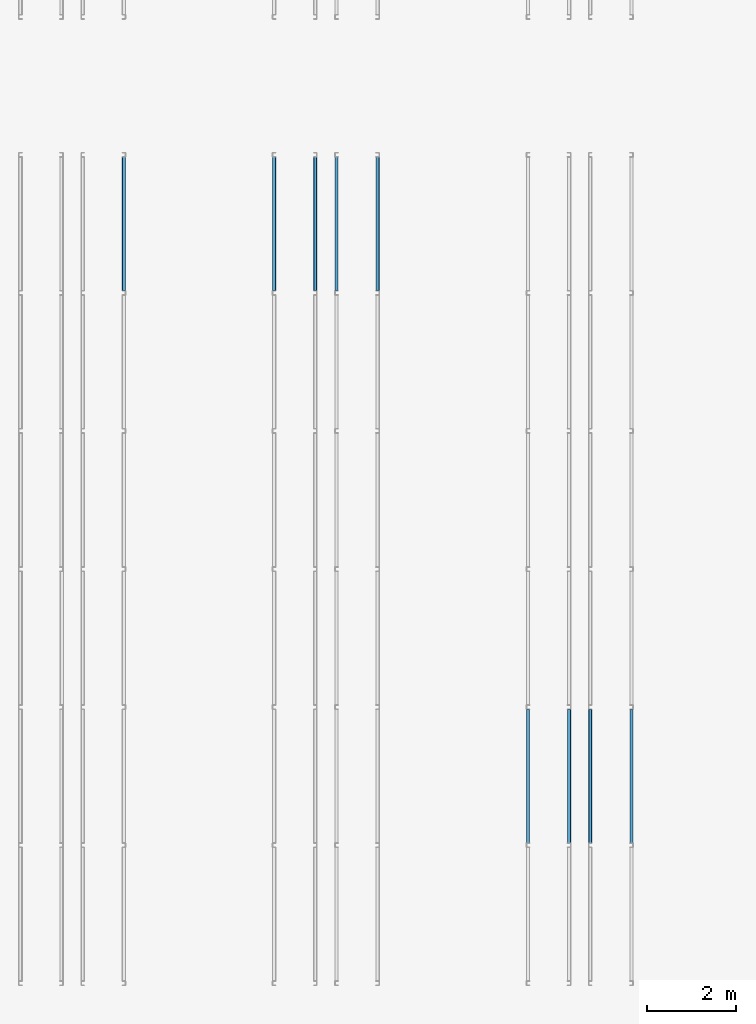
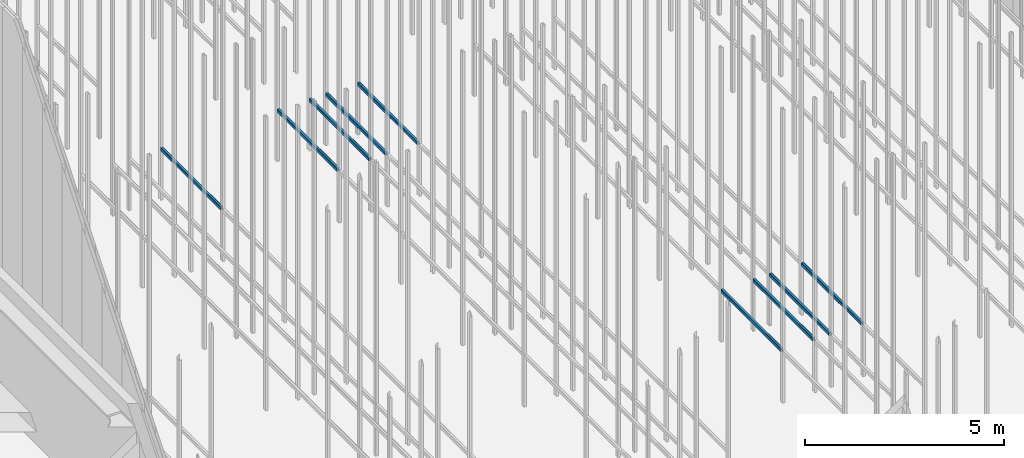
# One storey, part 147 of 302: 9 beams.
"""IFC2X3 building model written with IfcOpenShell, lengths in metres."""

from ifc_helpers import new_model, entity, si_unit, converted_unit, derived_unit, direction, frame, frame_2d, origin, place, context, subcontext, project, spatial, polyline, circle_curve, parameter, trimmed, segment, composite_curve, outline, extrude, material, type_object, element, save


model = new_model("IFC2X3")

# Units and contexts
model_context = context("Model", 3, precision=1e-05, world=origin(), true_north=direction((6.12303176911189e-17, 1.0)))
body_context = subcontext(model_context, "Body", "Model", "MODEL_VIEW")
ifc_project = project(units=[si_unit("LENGTHUNIT", "METRE"), si_unit("AREAUNIT", "SQUARE_METRE"), si_unit("VOLUMEUNIT", "CUBIC_METRE"), converted_unit("PLANEANGLEUNIT", "DEGREE", entity("IfcRatioMeasure", 0.0174532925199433), si_unit("PLANEANGLEUNIT", "RADIAN"), dimensions=[0, 0, 0, 0, 0, 0, 0]), si_unit("MASSUNIT", "GRAM", prefix="KILO"), derived_unit("MASSDENSITYUNIT", [(si_unit("MASSUNIT", "GRAM", prefix="KILO"), 1), (si_unit("LENGTHUNIT", "METRE"), -3)]), derived_unit("MOMENTOFINERTIAUNIT", [(si_unit("LENGTHUNIT", "METRE"), 4)]), si_unit("TIMEUNIT", "SECOND"), si_unit("FREQUENCYUNIT", "HERTZ"), si_unit("THERMODYNAMICTEMPERATUREUNIT", "DEGREE_CELSIUS"), derived_unit("THERMALTRANSMITTANCEUNIT", [(si_unit("MASSUNIT", "GRAM", prefix="KILO"), 1), (si_unit("THERMODYNAMICTEMPERATUREUNIT", "KELVIN"), -1), (si_unit("TIMEUNIT", "SECOND"), -3)]), derived_unit("VOLUMETRICFLOWRATEUNIT", [(si_unit("LENGTHUNIT", "METRE"), 3), (si_unit("TIMEUNIT", "SECOND"), -1)]), si_unit("ELECTRICCURRENTUNIT", "AMPERE"), si_unit("ELECTRICVOLTAGEUNIT", "VOLT"), si_unit("POWERUNIT", "WATT"), si_unit("FORCEUNIT", "NEWTON", prefix="KILO"), si_unit("ILLUMINANCEUNIT", "LUX"), si_unit("LUMINOUSFLUXUNIT", "LUMEN"), si_unit("LUMINOUSINTENSITYUNIT", "CANDELA"), derived_unit("USERDEFINED", [(si_unit("MASSUNIT", "GRAM", prefix="KILO"), -1), (si_unit("LENGTHUNIT", "METRE"), -2), (si_unit("TIMEUNIT", "SECOND"), 3), (si_unit("LUMINOUSFLUXUNIT", "LUMEN"), 1)]), derived_unit("LINEARVELOCITYUNIT", [(si_unit("LENGTHUNIT", "METRE"), 1), (si_unit("TIMEUNIT", "SECOND"), -1)]), si_unit("PRESSUREUNIT", "PASCAL"), derived_unit("USERDEFINED", [(si_unit("LENGTHUNIT", "METRE"), -2), (si_unit("MASSUNIT", "GRAM", prefix="KILO"), 1), (si_unit("TIMEUNIT", "SECOND"), -2)]), derived_unit("LINEARFORCEUNIT", [(si_unit("MASSUNIT", "GRAM", prefix="KILO"), 1), (si_unit("LENGTHUNIT", "METRE"), 1), (si_unit("TIMEUNIT", "SECOND"), -2), (si_unit("LENGTHUNIT", "METRE"), -1)]), derived_unit("PLANARFORCEUNIT", [(si_unit("MASSUNIT", "GRAM", prefix="KILO"), 1), (si_unit("LENGTHUNIT", "METRE"), 1), (si_unit("TIMEUNIT", "SECOND"), -2), (si_unit("LENGTHUNIT", "METRE"), -2)])], contexts=[model_context])

# Site, building, storey
site_placement = place(None, origin())
site = spatial("IfcSite", under=ifc_project, at=site_placement, Name="Default", CompositionType="ELEMENT")
building_placement = place(site_placement, origin())
building = spatial("IfcBuilding", under=site, at=building_placement, CompositionType="ELEMENT")
storey_placement = place(building_placement, frame((0.0, 0.0, -1.3)))
storey = spatial("IfcBuildingStorey", under=building, at=storey_placement, Name="00_EG", CompositionType="ELEMENT", Elevation=-1.3)

# Beams
ifc_material = material(Name="Metall - Baustahl S235 blau")
beam_type = type_object("IfcBeamType", Name="RHS Träger (EN 10219-2):RHS 100 x 75 x 5", PredefinedType="NOTDEFINED")
beam_1_placement = place(storey_placement, frame((-190.715111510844, 30.248088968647, 2.885), z_axis=(0.0, 0.0, 1.0), x_axis=(0.0, 1.0, 0.0)))
element("IfcBeam", 1, at=beam_1_placement, inside=storey, type_object=beam_type, material=ifc_material, Name="RHS Träger (EN 10219-2):RHS 100 x 75 x 5", ObjectType="RHS Träger (EN 10219-2):RHS 100 x 75 x 5", context=body_context, shape_type="SweptSolid", body=[
    extrude(outline(composite_curve([segment(trimmed(circle_curve(frame_2d((-0.0274999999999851, -0.0400000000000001), x_axis=(1.0, 0.0)), 0.01), [parameter(180.0)], [parameter(270.0)], True, "PARAMETER"), True, "CONTINUOUS"), segment(polyline([(-0.0274999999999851, -0.05), (0.0274999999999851, -0.05)]), True, "CONTINUOUS"), segment(trimmed(circle_curve(frame_2d((0.0274999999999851, -0.0400000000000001), x_axis=(1.0, 0.0)), 0.01), [parameter(270.0)], [parameter(5.08888749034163e-14)], True, "PARAMETER"), True, "CONTINUOUS"), segment(polyline([(0.0375000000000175, -0.0399999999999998), (0.0375000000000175, 0.0400000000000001)]), True, "CONTINUOUS"), segment(trimmed(circle_curve(frame_2d((0.0274999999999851, 0.0399999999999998), x_axis=(1.0, 0.0)), 0.01), [parameter(360.0)], [parameter(89.9999999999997)], True, "PARAMETER"), True, "CONTINUOUS"), segment(polyline([(0.0274999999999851, 0.05), (-0.0274999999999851, 0.05)]), True, "CONTINUOUS"), segment(trimmed(circle_curve(frame_2d((-0.0274999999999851, 0.0399999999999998), x_axis=(1.0, 0.0)), 0.01), [parameter(90.0000000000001)], [parameter(180.0)], True, "PARAMETER"), True, "CONTINUOUS"), segment(polyline([(-0.0374999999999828, 0.0400000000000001), (-0.0374999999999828, -0.0399999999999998)]), True, "CONTINUOUS")], self_intersect=False), holes=[composite_curve([segment(polyline([(0.0274999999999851, -0.0450000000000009), (-0.0274999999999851, -0.0450000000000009)]), True, "CONTINUOUS"), segment(trimmed(circle_curve(frame_2d((-0.0274999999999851, -0.0400000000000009), x_axis=(1.0, 0.0)), 0.005), [parameter(180.0)], [parameter(270.0)], True, "PARAMETER"), False, "CONTINUOUS"), segment(polyline([(-0.0325000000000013, -0.0400000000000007), (-0.0325000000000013, 0.0399999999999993)]), True, "CONTINUOUS"), segment(trimmed(circle_curve(frame_2d((-0.0274999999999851, 0.039999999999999), x_axis=(1.0, 0.0)), 0.005), [parameter(90.0000000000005)], [parameter(180.0)], True, "PARAMETER"), False, "CONTINUOUS"), segment(polyline([(-0.0274999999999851, 0.0449999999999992), (0.0274999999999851, 0.0449999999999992)]), True, "CONTINUOUS"), segment(trimmed(circle_curve(frame_2d((0.0274999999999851, 0.039999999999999), x_axis=(1.0, 0.0)), 0.005), [parameter(0.0)], [parameter(90.0000000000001)], True, "PARAMETER"), False, "CONTINUOUS"), segment(polyline([(0.0325000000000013, 0.0399999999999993), (0.0325000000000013, -0.0400000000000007)]), True, "CONTINUOUS"), segment(trimmed(circle_curve(frame_2d((0.0274999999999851, -0.0400000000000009), x_axis=(1.0, 0.0)), 0.005), [parameter(270.0)], [parameter(4.07110999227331e-13)], True, "PARAMETER"), False, "CONTINUOUS")], self_intersect=False)]), frame((0.00010000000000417, 0.0375000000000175, -0.0500000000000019), z_axis=(1.0, 0.0, 0.0), x_axis=(0.0, -1.0, 0.0)), (0.0, 0.0, 1.0), 2.9998),
])
beam_2_placement = place(storey_placement, frame((-189.865111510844, 30.248088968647, 2.885), z_axis=(0.0, 0.0, 1.0), x_axis=(0.0, 1.0, 0.0)))
element("IfcBeam", 2, at=beam_2_placement, inside=storey, type_object=beam_type, material=ifc_material, Name="RHS Träger (EN 10219-2):RHS 100 x 75 x 5", ObjectType="RHS Träger (EN 10219-2):RHS 100 x 75 x 5", context=body_context, shape_type="SweptSolid", body=[
    extrude(outline(composite_curve([segment(polyline([(-0.0399999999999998, -0.0375000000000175), (0.0400000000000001, -0.0375000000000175)]), True, "CONTINUOUS"), segment(trimmed(circle_curve(frame_2d((0.0399999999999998, -0.0275000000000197), x_axis=(0.0, 1.0)), 0.01), [parameter(180.0)], [parameter(270.0)], True, "PARAMETER"), True, "CONTINUOUS"), segment(polyline([(0.05, -0.0275000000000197), (0.05, 0.0274999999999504)]), True, "CONTINUOUS"), segment(trimmed(circle_curve(frame_2d((0.0399999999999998, 0.0274999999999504), x_axis=(0.0, 1.0)), 0.01), [parameter(270.0)], [parameter(4.07110999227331e-13)], True, "PARAMETER"), True, "CONTINUOUS"), segment(polyline([(0.0400000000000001, 0.0374999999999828), (-0.0399999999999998, 0.0374999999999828)]), True, "CONTINUOUS"), segment(trimmed(circle_curve(frame_2d((-0.0400000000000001, 0.0274999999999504), x_axis=(0.0, 1.0)), 0.01), [parameter(360.0)], [parameter(90.0000000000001)], True, "PARAMETER"), True, "CONTINUOUS"), segment(polyline([(-0.05, 0.0274999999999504), (-0.05, -0.0275000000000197)]), True, "CONTINUOUS"), segment(trimmed(circle_curve(frame_2d((-0.0400000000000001, -0.0275000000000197), x_axis=(0.0, 1.0)), 0.01), [parameter(90.0000000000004)], [parameter(180.0)], True, "PARAMETER"), True, "CONTINUOUS")], self_intersect=False), holes=[composite_curve([segment(trimmed(circle_curve(frame_2d((-0.0400000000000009, 0.0274999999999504), x_axis=(0.0, 1.0)), 0.005), [parameter(360.0)], [parameter(89.9999999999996)], True, "PARAMETER"), False, "CONTINUOUS"), segment(polyline([(-0.0400000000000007, 0.0324999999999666), (0.0399999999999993, 0.0324999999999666)]), True, "CONTINUOUS"), segment(trimmed(circle_curve(frame_2d((0.039999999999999, 0.0274999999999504), x_axis=(0.0, 1.0)), 0.005), [parameter(270.0)], [parameter(0.0)], True, "PARAMETER"), False, "CONTINUOUS"), segment(polyline([(0.0449999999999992, 0.0274999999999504), (0.0449999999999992, -0.0275000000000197)]), True, "CONTINUOUS"), segment(trimmed(circle_curve(frame_2d((0.039999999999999, -0.0275000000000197), x_axis=(0.0, 1.0)), 0.005), [parameter(180.0)], [parameter(269.999999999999)], True, "PARAMETER"), False, "CONTINUOUS"), segment(polyline([(0.0399999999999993, -0.0325000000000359), (-0.0400000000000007, -0.0325000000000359)]), True, "CONTINUOUS"), segment(trimmed(circle_curve(frame_2d((-0.0400000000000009, -0.0275000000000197), x_axis=(0.0, 1.0)), 0.005), [parameter(90.0000000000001)], [parameter(180.0)], True, "PARAMETER"), False, "CONTINUOUS"), segment(polyline([(-0.0450000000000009, -0.0275000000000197), (-0.0450000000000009, 0.0274999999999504)]), True, "CONTINUOUS")], self_intersect=False)]), frame((0.00010000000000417, -0.0374999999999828, -0.0500000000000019), z_axis=(1.0, 0.0, 0.0), x_axis=(0.0, 0.0, -1.0)), (0.0, 0.0, 1.0), 2.9998),
])
beam_3_placement = place(storey_placement, frame((-189.315111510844, 30.248088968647, 2.885), z_axis=(0.0, 0.0, 1.0), x_axis=(0.0, 1.0, 0.0)))
element("IfcBeam", 3, at=beam_3_placement, inside=storey, type_object=beam_type, material=ifc_material, Name="RHS Träger (EN 10219-2):RHS 100 x 75 x 5", ObjectType="RHS Träger (EN 10219-2):RHS 100 x 75 x 5", context=body_context, shape_type="SweptSolid", body=[
    extrude(outline(composite_curve([segment(trimmed(circle_curve(frame_2d((-0.0274999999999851, -0.0400000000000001), x_axis=(1.0, 0.0)), 0.01), [parameter(180.0)], [parameter(270.0)], True, "PARAMETER"), True, "CONTINUOUS"), segment(polyline([(-0.0274999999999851, -0.05), (0.0274999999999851, -0.05)]), True, "CONTINUOUS"), segment(trimmed(circle_curve(frame_2d((0.0274999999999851, -0.0400000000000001), x_axis=(1.0, 0.0)), 0.01), [parameter(270.0)], [parameter(5.08888749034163e-14)], True, "PARAMETER"), True, "CONTINUOUS"), segment(polyline([(0.0375000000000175, -0.0399999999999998), (0.0375000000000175, 0.0400000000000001)]), True, "CONTINUOUS"), segment(trimmed(circle_curve(frame_2d((0.0274999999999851, 0.0399999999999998), x_axis=(1.0, 0.0)), 0.01), [parameter(360.0)], [parameter(89.9999999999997)], True, "PARAMETER"), True, "CONTINUOUS"), segment(polyline([(0.0274999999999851, 0.05), (-0.0274999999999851, 0.05)]), True, "CONTINUOUS"), segment(trimmed(circle_curve(frame_2d((-0.0274999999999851, 0.0399999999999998), x_axis=(1.0, 0.0)), 0.01), [parameter(90.0000000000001)], [parameter(180.0)], True, "PARAMETER"), True, "CONTINUOUS"), segment(polyline([(-0.0374999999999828, 0.0400000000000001), (-0.0374999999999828, -0.0399999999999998)]), True, "CONTINUOUS")], self_intersect=False), holes=[composite_curve([segment(polyline([(0.0274999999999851, -0.0450000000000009), (-0.0274999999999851, -0.0450000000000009)]), True, "CONTINUOUS"), segment(trimmed(circle_curve(frame_2d((-0.0274999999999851, -0.0400000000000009), x_axis=(1.0, 0.0)), 0.005), [parameter(180.0)], [parameter(270.0)], True, "PARAMETER"), False, "CONTINUOUS"), segment(polyline([(-0.0325000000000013, -0.0400000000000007), (-0.0325000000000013, 0.0399999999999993)]), True, "CONTINUOUS"), segment(trimmed(circle_curve(frame_2d((-0.0274999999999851, 0.039999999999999), x_axis=(1.0, 0.0)), 0.005), [parameter(90.0000000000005)], [parameter(180.0)], True, "PARAMETER"), False, "CONTINUOUS"), segment(polyline([(-0.0274999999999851, 0.0449999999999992), (0.0274999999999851, 0.0449999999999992)]), True, "CONTINUOUS"), segment(trimmed(circle_curve(frame_2d((0.0274999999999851, 0.039999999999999), x_axis=(1.0, 0.0)), 0.005), [parameter(0.0)], [parameter(90.0000000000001)], True, "PARAMETER"), False, "CONTINUOUS"), segment(polyline([(0.0325000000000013, 0.0399999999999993), (0.0325000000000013, -0.0400000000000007)]), True, "CONTINUOUS"), segment(trimmed(circle_curve(frame_2d((0.0274999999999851, -0.0400000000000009), x_axis=(1.0, 0.0)), 0.005), [parameter(270.0)], [parameter(4.07110999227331e-13)], True, "PARAMETER"), False, "CONTINUOUS")], self_intersect=False)]), frame((0.00010000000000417, 0.0375000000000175, -0.0500000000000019), z_axis=(1.0, 0.0, 0.0), x_axis=(0.0, -1.0, 0.0)), (0.0, 0.0, 1.0), 2.9998),
])
beam_4_placement = place(storey_placement, frame((-188.465111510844, 30.248088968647, 2.885), z_axis=(0.0, 0.0, 1.0), x_axis=(0.0, 1.0, 0.0)))
element("IfcBeam", 4, at=beam_4_placement, inside=storey, type_object=beam_type, material=ifc_material, Name="RHS Träger (EN 10219-2):RHS 100 x 75 x 5", ObjectType="RHS Träger (EN 10219-2):RHS 100 x 75 x 5", context=body_context, shape_type="SweptSolid", body=[
    extrude(outline(composite_curve([segment(polyline([(-0.0399999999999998, -0.0374999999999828), (0.0400000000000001, -0.0374999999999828)]), True, "CONTINUOUS"), segment(trimmed(circle_curve(frame_2d((0.0399999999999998, -0.0274999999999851), x_axis=(0.0, 1.0)), 0.01), [parameter(180.0)], [parameter(270.0)], True, "PARAMETER"), True, "CONTINUOUS"), segment(polyline([(0.05, -0.0274999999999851), (0.05, 0.0274999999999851)]), True, "CONTINUOUS"), segment(trimmed(circle_curve(frame_2d((0.0399999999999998, 0.0274999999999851), x_axis=(0.0, 1.0)), 0.01), [parameter(270.0)], [parameter(4.07110999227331e-13)], True, "PARAMETER"), True, "CONTINUOUS"), segment(polyline([(0.0400000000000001, 0.0375000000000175), (-0.0399999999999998, 0.0375000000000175)]), True, "CONTINUOUS"), segment(trimmed(circle_curve(frame_2d((-0.0400000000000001, 0.0274999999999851), x_axis=(0.0, 1.0)), 0.01), [parameter(360.0)], [parameter(90.0000000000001)], True, "PARAMETER"), True, "CONTINUOUS"), segment(polyline([(-0.05, 0.0274999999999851), (-0.05, -0.0274999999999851)]), True, "CONTINUOUS"), segment(trimmed(circle_curve(frame_2d((-0.0400000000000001, -0.0274999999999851), x_axis=(0.0, 1.0)), 0.01), [parameter(90.0000000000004)], [parameter(180.0)], True, "PARAMETER"), True, "CONTINUOUS")], self_intersect=False), holes=[composite_curve([segment(trimmed(circle_curve(frame_2d((-0.0400000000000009, 0.0274999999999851), x_axis=(0.0, 1.0)), 0.005), [parameter(360.0)], [parameter(89.9999999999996)], True, "PARAMETER"), False, "CONTINUOUS"), segment(polyline([(-0.0400000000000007, 0.0325000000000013), (0.0399999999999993, 0.0325000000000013)]), True, "CONTINUOUS"), segment(trimmed(circle_curve(frame_2d((0.039999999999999, 0.0274999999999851), x_axis=(0.0, 1.0)), 0.005), [parameter(270.0)], [parameter(0.0)], True, "PARAMETER"), False, "CONTINUOUS"), segment(polyline([(0.0449999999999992, 0.0274999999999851), (0.0449999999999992, -0.0274999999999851)]), True, "CONTINUOUS"), segment(trimmed(circle_curve(frame_2d((0.039999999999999, -0.0274999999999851), x_axis=(0.0, 1.0)), 0.005), [parameter(180.0)], [parameter(269.999999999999)], True, "PARAMETER"), False, "CONTINUOUS"), segment(polyline([(0.0399999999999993, -0.0325000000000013), (-0.0400000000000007, -0.0325000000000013)]), True, "CONTINUOUS"), segment(trimmed(circle_curve(frame_2d((-0.0400000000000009, -0.0274999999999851), x_axis=(0.0, 1.0)), 0.005), [parameter(90.0000000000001)], [parameter(180.0)], True, "PARAMETER"), False, "CONTINUOUS"), segment(polyline([(-0.0450000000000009, -0.0274999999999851), (-0.0450000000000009, 0.0274999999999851)]), True, "CONTINUOUS")], self_intersect=False)]), frame((0.00010000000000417, -0.0375000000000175, -0.0500000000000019), z_axis=(1.0, 0.0, 0.0), x_axis=(0.0, 0.0, -1.0)), (0.0, 0.0, 1.0), 2.9998),
])
beam_5_placement = place(storey_placement, frame((-196.415111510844, 42.648088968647, 2.885), z_axis=(0.0, 0.0, 1.0), x_axis=(0.0, 1.0, 0.0)))
element("IfcBeam", 5, at=beam_5_placement, inside=storey, type_object=beam_type, material=ifc_material, Name="RHS Träger (EN 10219-2):RHS 100 x 75 x 5", ObjectType="RHS Träger (EN 10219-2):RHS 100 x 75 x 5", context=body_context, shape_type="SweptSolid", body=[
    extrude(outline(composite_curve([segment(trimmed(circle_curve(frame_2d((-0.0274999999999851, -0.0400000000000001), x_axis=(1.0, 0.0)), 0.01), [parameter(180.0)], [parameter(270.0)], True, "PARAMETER"), True, "CONTINUOUS"), segment(polyline([(-0.0274999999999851, -0.05), (0.0274999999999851, -0.05)]), True, "CONTINUOUS"), segment(trimmed(circle_curve(frame_2d((0.0274999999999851, -0.0400000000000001), x_axis=(1.0, 0.0)), 0.01), [parameter(270.0)], [parameter(5.08888749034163e-14)], True, "PARAMETER"), True, "CONTINUOUS"), segment(polyline([(0.0375000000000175, -0.0399999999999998), (0.0375000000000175, 0.0400000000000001)]), True, "CONTINUOUS"), segment(trimmed(circle_curve(frame_2d((0.0274999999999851, 0.0399999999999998), x_axis=(1.0, 0.0)), 0.01), [parameter(360.0)], [parameter(89.9999999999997)], True, "PARAMETER"), True, "CONTINUOUS"), segment(polyline([(0.0274999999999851, 0.05), (-0.0274999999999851, 0.05)]), True, "CONTINUOUS"), segment(trimmed(circle_curve(frame_2d((-0.0274999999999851, 0.0399999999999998), x_axis=(1.0, 0.0)), 0.01), [parameter(90.0000000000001)], [parameter(180.0)], True, "PARAMETER"), True, "CONTINUOUS"), segment(polyline([(-0.0374999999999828, 0.0400000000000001), (-0.0374999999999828, -0.0399999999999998)]), True, "CONTINUOUS")], self_intersect=False), holes=[composite_curve([segment(polyline([(0.0274999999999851, -0.0450000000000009), (-0.0274999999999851, -0.0450000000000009)]), True, "CONTINUOUS"), segment(trimmed(circle_curve(frame_2d((-0.0274999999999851, -0.0400000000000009), x_axis=(1.0, 0.0)), 0.005), [parameter(180.0)], [parameter(270.0)], True, "PARAMETER"), False, "CONTINUOUS"), segment(polyline([(-0.0325000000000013, -0.0400000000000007), (-0.0325000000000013, 0.0399999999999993)]), True, "CONTINUOUS"), segment(trimmed(circle_curve(frame_2d((-0.0274999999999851, 0.039999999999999), x_axis=(1.0, 0.0)), 0.005), [parameter(90.0000000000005)], [parameter(180.0)], True, "PARAMETER"), False, "CONTINUOUS"), segment(polyline([(-0.0274999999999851, 0.0449999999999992), (0.0274999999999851, 0.0449999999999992)]), True, "CONTINUOUS"), segment(trimmed(circle_curve(frame_2d((0.0274999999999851, 0.039999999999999), x_axis=(1.0, 0.0)), 0.005), [parameter(0.0)], [parameter(90.0000000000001)], True, "PARAMETER"), False, "CONTINUOUS"), segment(polyline([(0.0325000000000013, 0.0399999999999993), (0.0325000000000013, -0.0400000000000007)]), True, "CONTINUOUS"), segment(trimmed(circle_curve(frame_2d((0.0274999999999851, -0.0400000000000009), x_axis=(1.0, 0.0)), 0.005), [parameter(270.0)], [parameter(4.07110999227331e-13)], True, "PARAMETER"), False, "CONTINUOUS")], self_intersect=False)]), frame((9.99999999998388e-05, 0.0375000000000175, -0.0500000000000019), z_axis=(1.0, 0.0, 0.0), x_axis=(0.0, -1.0, 0.0)), (0.0, 0.0, 1.0), 2.99979999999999),
])
beam_6_placement = place(storey_placement, frame((-195.565111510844, 42.648088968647, 2.885), z_axis=(0.0, 0.0, 1.0), x_axis=(0.0, 1.0, 0.0)))
element("IfcBeam", 6, at=beam_6_placement, inside=storey, type_object=beam_type, material=ifc_material, Name="RHS Träger (EN 10219-2):RHS 100 x 75 x 5", ObjectType="RHS Träger (EN 10219-2):RHS 100 x 75 x 5", context=body_context, shape_type="SweptSolid", body=[
    extrude(outline(composite_curve([segment(polyline([(-0.0399999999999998, -0.0374999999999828), (0.0400000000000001, -0.0374999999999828)]), True, "CONTINUOUS"), segment(trimmed(circle_curve(frame_2d((0.0399999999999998, -0.0274999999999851), x_axis=(0.0, 1.0)), 0.01), [parameter(180.0)], [parameter(270.0)], True, "PARAMETER"), True, "CONTINUOUS"), segment(polyline([(0.05, -0.0274999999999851), (0.05, 0.0274999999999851)]), True, "CONTINUOUS"), segment(trimmed(circle_curve(frame_2d((0.0399999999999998, 0.0274999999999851), x_axis=(0.0, 1.0)), 0.01), [parameter(270.0)], [parameter(4.07110999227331e-13)], True, "PARAMETER"), True, "CONTINUOUS"), segment(polyline([(0.0400000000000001, 0.0375000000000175), (-0.0399999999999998, 0.0375000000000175)]), True, "CONTINUOUS"), segment(trimmed(circle_curve(frame_2d((-0.0400000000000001, 0.0274999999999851), x_axis=(0.0, 1.0)), 0.01), [parameter(360.0)], [parameter(90.0000000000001)], True, "PARAMETER"), True, "CONTINUOUS"), segment(polyline([(-0.05, 0.0274999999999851), (-0.05, -0.0274999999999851)]), True, "CONTINUOUS"), segment(trimmed(circle_curve(frame_2d((-0.0400000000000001, -0.0274999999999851), x_axis=(0.0, 1.0)), 0.01), [parameter(90.0000000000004)], [parameter(180.0)], True, "PARAMETER"), True, "CONTINUOUS")], self_intersect=False), holes=[composite_curve([segment(trimmed(circle_curve(frame_2d((-0.0400000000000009, 0.0274999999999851), x_axis=(0.0, 1.0)), 0.005), [parameter(360.0)], [parameter(89.9999999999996)], True, "PARAMETER"), False, "CONTINUOUS"), segment(polyline([(-0.0400000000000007, 0.0325000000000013), (0.0399999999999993, 0.0325000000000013)]), True, "CONTINUOUS"), segment(trimmed(circle_curve(frame_2d((0.039999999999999, 0.0274999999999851), x_axis=(0.0, 1.0)), 0.005), [parameter(270.0)], [parameter(0.0)], True, "PARAMETER"), False, "CONTINUOUS"), segment(polyline([(0.0449999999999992, 0.0274999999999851), (0.0449999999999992, -0.0274999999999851)]), True, "CONTINUOUS"), segment(trimmed(circle_curve(frame_2d((0.039999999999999, -0.0274999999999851), x_axis=(0.0, 1.0)), 0.005), [parameter(180.0)], [parameter(269.999999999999)], True, "PARAMETER"), False, "CONTINUOUS"), segment(polyline([(0.0399999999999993, -0.0325000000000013), (-0.0400000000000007, -0.0325000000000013)]), True, "CONTINUOUS"), segment(trimmed(circle_curve(frame_2d((-0.0400000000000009, -0.0274999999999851), x_axis=(0.0, 1.0)), 0.005), [parameter(90.0000000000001)], [parameter(180.0)], True, "PARAMETER"), False, "CONTINUOUS"), segment(polyline([(-0.0450000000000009, -0.0274999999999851), (-0.0450000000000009, 0.0274999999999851)]), True, "CONTINUOUS")], self_intersect=False)]), frame((9.99999999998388e-05, -0.0375000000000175, -0.0500000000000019), z_axis=(1.0, 0.0, 0.0), x_axis=(0.0, 0.0, -1.0)), (0.0, 0.0, 1.0), 2.99979999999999),
])
beam_7_placement = place(storey_placement, frame((-195.015111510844, 42.648088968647, 2.885), z_axis=(0.0, 0.0, 1.0), x_axis=(0.0, 1.0, 0.0)))
element("IfcBeam", 7, at=beam_7_placement, inside=storey, type_object=beam_type, material=ifc_material, Name="RHS Träger (EN 10219-2):RHS 100 x 75 x 5", ObjectType="RHS Träger (EN 10219-2):RHS 100 x 75 x 5", context=body_context, shape_type="SweptSolid", body=[
    extrude(outline(composite_curve([segment(trimmed(circle_curve(frame_2d((-0.0275000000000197, -0.0400000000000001), x_axis=(1.0, 0.0)), 0.01), [parameter(180.0)], [parameter(270.0)], True, "PARAMETER"), True, "CONTINUOUS"), segment(polyline([(-0.0275000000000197, -0.05), (0.0274999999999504, -0.05)]), True, "CONTINUOUS"), segment(trimmed(circle_curve(frame_2d((0.0274999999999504, -0.0400000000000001), x_axis=(1.0, 0.0)), 0.01), [parameter(270.0)], [parameter(5.08888749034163e-14)], True, "PARAMETER"), True, "CONTINUOUS"), segment(polyline([(0.0374999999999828, -0.0399999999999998), (0.0374999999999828, 0.0400000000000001)]), True, "CONTINUOUS"), segment(trimmed(circle_curve(frame_2d((0.0274999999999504, 0.0399999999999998), x_axis=(1.0, 0.0)), 0.01), [parameter(360.0)], [parameter(89.9999999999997)], True, "PARAMETER"), True, "CONTINUOUS"), segment(polyline([(0.0274999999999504, 0.05), (-0.0275000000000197, 0.05)]), True, "CONTINUOUS"), segment(trimmed(circle_curve(frame_2d((-0.0275000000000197, 0.0399999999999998), x_axis=(1.0, 0.0)), 0.01), [parameter(90.0000000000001)], [parameter(180.0)], True, "PARAMETER"), True, "CONTINUOUS"), segment(polyline([(-0.0375000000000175, 0.0400000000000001), (-0.0375000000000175, -0.0399999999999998)]), True, "CONTINUOUS")], self_intersect=False), holes=[composite_curve([segment(polyline([(0.0274999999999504, -0.0450000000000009), (-0.0275000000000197, -0.0450000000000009)]), True, "CONTINUOUS"), segment(trimmed(circle_curve(frame_2d((-0.0275000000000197, -0.0400000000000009), x_axis=(1.0, 0.0)), 0.005), [parameter(180.0)], [parameter(270.0)], True, "PARAMETER"), False, "CONTINUOUS"), segment(polyline([(-0.0325000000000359, -0.0400000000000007), (-0.0325000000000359, 0.0399999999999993)]), True, "CONTINUOUS"), segment(trimmed(circle_curve(frame_2d((-0.0275000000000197, 0.039999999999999), x_axis=(1.0, 0.0)), 0.005), [parameter(90.0000000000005)], [parameter(180.0)], True, "PARAMETER"), False, "CONTINUOUS"), segment(polyline([(-0.0275000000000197, 0.0449999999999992), (0.0274999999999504, 0.0449999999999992)]), True, "CONTINUOUS"), segment(trimmed(circle_curve(frame_2d((0.0274999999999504, 0.039999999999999), x_axis=(1.0, 0.0)), 0.005), [parameter(0.0)], [parameter(90.0000000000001)], True, "PARAMETER"), False, "CONTINUOUS"), segment(polyline([(0.0324999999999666, 0.0399999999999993), (0.0324999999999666, -0.0400000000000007)]), True, "CONTINUOUS"), segment(trimmed(circle_curve(frame_2d((0.0274999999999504, -0.0400000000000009), x_axis=(1.0, 0.0)), 0.005), [parameter(270.0)], [parameter(4.07110999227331e-13)], True, "PARAMETER"), False, "CONTINUOUS")], self_intersect=False)]), frame((9.99999999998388e-05, 0.0374999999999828, -0.0500000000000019), z_axis=(1.0, 0.0, 0.0), x_axis=(0.0, -1.0, 0.0)), (0.0, 0.0, 1.0), 2.99979999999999),
])
beam_8_placement = place(storey_placement, frame((-194.165111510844, 42.648088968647, 2.885), z_axis=(0.0, 0.0, 1.0), x_axis=(0.0, 1.0, 0.0)))
element("IfcBeam", 8, at=beam_8_placement, inside=storey, type_object=beam_type, material=ifc_material, Name="RHS Träger (EN 10219-2):RHS 100 x 75 x 5", ObjectType="RHS Träger (EN 10219-2):RHS 100 x 75 x 5", context=body_context, shape_type="SweptSolid", body=[
    extrude(outline(composite_curve([segment(polyline([(-0.0399999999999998, -0.0374999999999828), (0.0400000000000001, -0.0374999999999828)]), True, "CONTINUOUS"), segment(trimmed(circle_curve(frame_2d((0.0399999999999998, -0.0274999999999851), x_axis=(0.0, 1.0)), 0.01), [parameter(180.0)], [parameter(270.0)], True, "PARAMETER"), True, "CONTINUOUS"), segment(polyline([(0.05, -0.0274999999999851), (0.05, 0.0274999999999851)]), True, "CONTINUOUS"), segment(trimmed(circle_curve(frame_2d((0.0399999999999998, 0.0274999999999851), x_axis=(0.0, 1.0)), 0.01), [parameter(270.0)], [parameter(4.07110999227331e-13)], True, "PARAMETER"), True, "CONTINUOUS"), segment(polyline([(0.0400000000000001, 0.0375000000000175), (-0.0399999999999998, 0.0375000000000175)]), True, "CONTINUOUS"), segment(trimmed(circle_curve(frame_2d((-0.0400000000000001, 0.0274999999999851), x_axis=(0.0, 1.0)), 0.01), [parameter(360.0)], [parameter(90.0000000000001)], True, "PARAMETER"), True, "CONTINUOUS"), segment(polyline([(-0.05, 0.0274999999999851), (-0.05, -0.0274999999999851)]), True, "CONTINUOUS"), segment(trimmed(circle_curve(frame_2d((-0.0400000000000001, -0.0274999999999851), x_axis=(0.0, 1.0)), 0.01), [parameter(90.0000000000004)], [parameter(180.0)], True, "PARAMETER"), True, "CONTINUOUS")], self_intersect=False), holes=[composite_curve([segment(trimmed(circle_curve(frame_2d((-0.0400000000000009, 0.0274999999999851), x_axis=(0.0, 1.0)), 0.005), [parameter(360.0)], [parameter(89.9999999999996)], True, "PARAMETER"), False, "CONTINUOUS"), segment(polyline([(-0.0400000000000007, 0.0325000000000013), (0.0399999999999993, 0.0325000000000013)]), True, "CONTINUOUS"), segment(trimmed(circle_curve(frame_2d((0.039999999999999, 0.0274999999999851), x_axis=(0.0, 1.0)), 0.005), [parameter(270.0)], [parameter(0.0)], True, "PARAMETER"), False, "CONTINUOUS"), segment(polyline([(0.0449999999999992, 0.0274999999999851), (0.0449999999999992, -0.0274999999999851)]), True, "CONTINUOUS"), segment(trimmed(circle_curve(frame_2d((0.039999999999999, -0.0274999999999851), x_axis=(0.0, 1.0)), 0.005), [parameter(180.0)], [parameter(269.999999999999)], True, "PARAMETER"), False, "CONTINUOUS"), segment(polyline([(0.0399999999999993, -0.0325000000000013), (-0.0400000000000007, -0.0325000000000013)]), True, "CONTINUOUS"), segment(trimmed(circle_curve(frame_2d((-0.0400000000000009, -0.0274999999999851), x_axis=(0.0, 1.0)), 0.005), [parameter(90.0000000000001)], [parameter(180.0)], True, "PARAMETER"), False, "CONTINUOUS"), segment(polyline([(-0.0450000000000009, -0.0274999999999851), (-0.0450000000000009, 0.0274999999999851)]), True, "CONTINUOUS")], self_intersect=False)]), frame((9.99999999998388e-05, -0.0375000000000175, -0.0500000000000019), z_axis=(1.0, 0.0, 0.0), x_axis=(0.0, 0.0, -1.0)), (0.0, 0.0, 1.0), 2.99979999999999),
])
beam_9_placement = place(storey_placement, frame((-199.865111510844, 42.648088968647, 2.885), z_axis=(0.0, 0.0, 1.0), x_axis=(0.0, 1.0, 0.0)))
element("IfcBeam", 9, at=beam_9_placement, inside=storey, type_object=beam_type, material=ifc_material, Name="RHS Träger (EN 10219-2):RHS 100 x 75 x 5", ObjectType="RHS Träger (EN 10219-2):RHS 100 x 75 x 5", context=body_context, shape_type="SweptSolid", body=[
    extrude(outline(composite_curve([segment(polyline([(-0.0399999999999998, -0.0374999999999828), (0.0400000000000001, -0.0374999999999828)]), True, "CONTINUOUS"), segment(trimmed(circle_curve(frame_2d((0.0399999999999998, -0.0274999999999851), x_axis=(0.0, 1.0)), 0.01), [parameter(180.0)], [parameter(270.0)], True, "PARAMETER"), True, "CONTINUOUS"), segment(polyline([(0.05, -0.0274999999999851), (0.05, 0.0274999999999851)]), True, "CONTINUOUS"), segment(trimmed(circle_curve(frame_2d((0.0399999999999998, 0.0274999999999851), x_axis=(0.0, 1.0)), 0.01), [parameter(270.0)], [parameter(4.07110999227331e-13)], True, "PARAMETER"), True, "CONTINUOUS"), segment(polyline([(0.0400000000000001, 0.0375000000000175), (-0.0399999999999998, 0.0375000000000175)]), True, "CONTINUOUS"), segment(trimmed(circle_curve(frame_2d((-0.0400000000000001, 0.0274999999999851), x_axis=(0.0, 1.0)), 0.01), [parameter(360.0)], [parameter(90.0000000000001)], True, "PARAMETER"), True, "CONTINUOUS"), segment(polyline([(-0.05, 0.0274999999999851), (-0.05, -0.0274999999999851)]), True, "CONTINUOUS"), segment(trimmed(circle_curve(frame_2d((-0.0400000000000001, -0.0274999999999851), x_axis=(0.0, 1.0)), 0.01), [parameter(90.0000000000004)], [parameter(180.0)], True, "PARAMETER"), True, "CONTINUOUS")], self_intersect=False), holes=[composite_curve([segment(trimmed(circle_curve(frame_2d((-0.0400000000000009, 0.0274999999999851), x_axis=(0.0, 1.0)), 0.005), [parameter(360.0)], [parameter(89.9999999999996)], True, "PARAMETER"), False, "CONTINUOUS"), segment(polyline([(-0.0400000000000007, 0.0325000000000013), (0.0399999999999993, 0.0325000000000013)]), True, "CONTINUOUS"), segment(trimmed(circle_curve(frame_2d((0.039999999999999, 0.0274999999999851), x_axis=(0.0, 1.0)), 0.005), [parameter(270.0)], [parameter(0.0)], True, "PARAMETER"), False, "CONTINUOUS"), segment(polyline([(0.0449999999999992, 0.0274999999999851), (0.0449999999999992, -0.0274999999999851)]), True, "CONTINUOUS"), segment(trimmed(circle_curve(frame_2d((0.039999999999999, -0.0274999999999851), x_axis=(0.0, 1.0)), 0.005), [parameter(180.0)], [parameter(269.999999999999)], True, "PARAMETER"), False, "CONTINUOUS"), segment(polyline([(0.0399999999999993, -0.0325000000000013), (-0.0400000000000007, -0.0325000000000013)]), True, "CONTINUOUS"), segment(trimmed(circle_curve(frame_2d((-0.0400000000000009, -0.0274999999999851), x_axis=(0.0, 1.0)), 0.005), [parameter(90.0000000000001)], [parameter(180.0)], True, "PARAMETER"), False, "CONTINUOUS"), segment(polyline([(-0.0450000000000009, -0.0274999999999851), (-0.0450000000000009, 0.0274999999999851)]), True, "CONTINUOUS")], self_intersect=False)]), frame((0.000100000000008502, -0.0375000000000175, -0.0500000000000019), z_axis=(1.0, 0.0, 0.0), x_axis=(0.0, 0.0, -1.0)), (0.0, 0.0, 1.0), 2.99979999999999),
])

save(model, "model.ifc")
